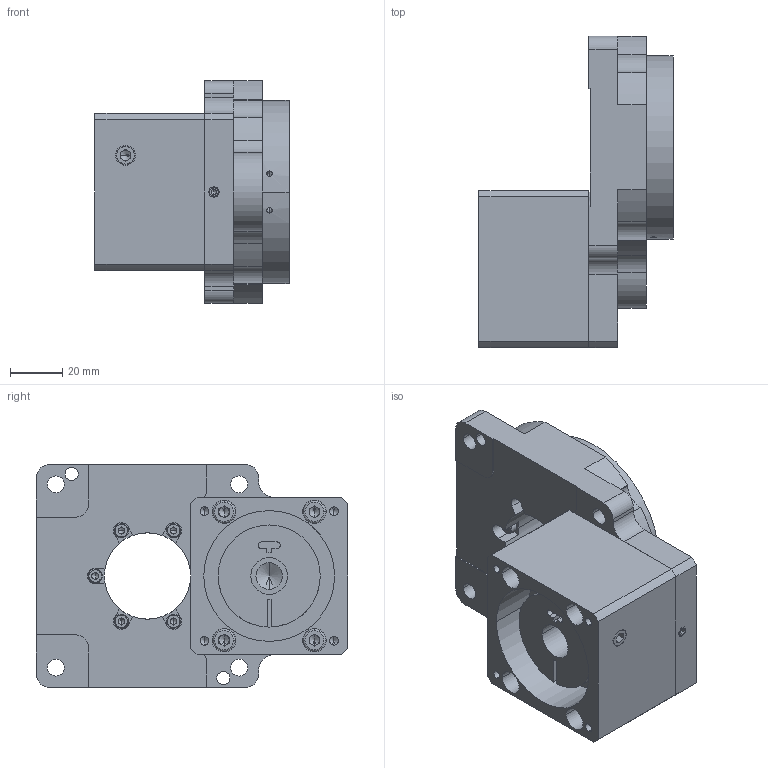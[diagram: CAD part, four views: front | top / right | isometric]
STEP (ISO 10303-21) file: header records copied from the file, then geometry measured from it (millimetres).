
FILE_DESCRIPTION (( 'STEP AP214' ), '1' );
FILE_NAME ('DG085-5.STEP', '2021-04-23T05:15:39', ( 'Microsoft' ), ( 'Microsoft China' ), 'SwSTEP 2.0', 'SolidWorks 2016', '' );
FILE_SCHEMA (( 'AUTOMOTIVE_DESIGN' ));
Length unit declared in the file: millimetre
Products named in the file (1): DG085-5
Bounding box: 74.2 x 119 x 85 mm (x, y, z)
Volume: 300657.1 mm3; surface area: 67897.7 mm2
Topology: 15 solids, 15 shells, 584 faces, 1432 edges, 872 vertices
Faces by surface type: plane 255, cylinder 183, cone 126, torus 20
Entity records: 17324 total; most frequent: CARTESIAN_POINT 3171, DIRECTION 3128, ORIENTED_EDGE 2744, EDGE_CURVE 1372, AXIS2_PLACEMENT_3D 1187, VERTEX_POINT 872, VECTOR 754, LINE 754
